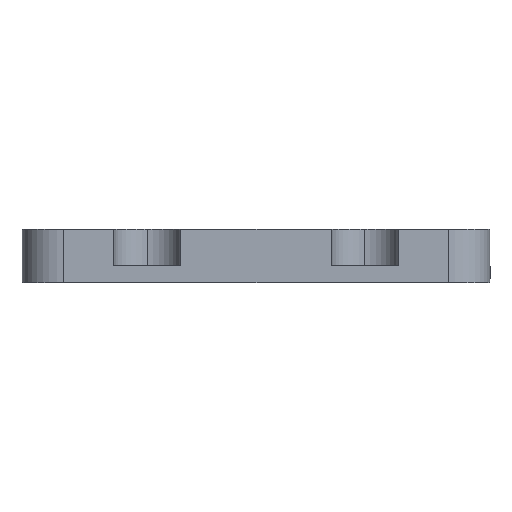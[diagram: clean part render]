
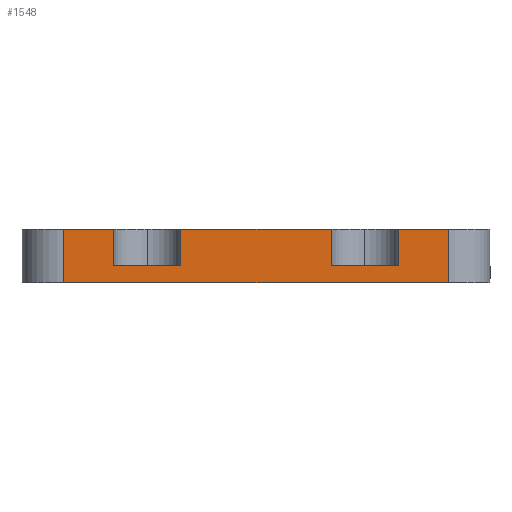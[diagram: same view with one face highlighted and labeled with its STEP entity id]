
A CAD part, left-side view. The second image highlights one B-rep face of the part: STEP entity #1548.
In plain terms, the highlighted planar face has unit normal (-1, 0, 0).
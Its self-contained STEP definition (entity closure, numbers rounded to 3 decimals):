
#14 = CARTESIAN_POINT ( 'NONE',  ( 0., 19., 2. ) ) ;
#52 = DIRECTION ( 'NONE',  ( 0., 0., -1. ) ) ;
#60 = CARTESIAN_POINT ( 'NONE',  ( 0., 51., 6.35 ) ) ;
#67 = LINE ( 'NONE', #70, #428 ) ;
#70 = CARTESIAN_POINT ( 'NONE',  ( 0., 5., 6.35 ) ) ;
#75 = DIRECTION ( 'NONE',  ( 0., 0., 1. ) ) ;
#77 = CARTESIAN_POINT ( 'NONE',  ( 0., 11., -12.036 ) ) ;
#78 = DIRECTION ( 'NONE',  ( 0., 0., 1. ) ) ;
#79 = CARTESIAN_POINT ( 'NONE',  ( 0., 45., -12.036 ) ) ;
#81 = LINE ( 'NONE', #77, #392 ) ;
#82 = LINE ( 'NONE', #79, #398 ) ;
#93 = LINE ( 'NONE', #60, #800 ) ;
#256 = DIRECTION ( 'NONE',  ( 0., 0., -1. ) ) ;
#257 = DIRECTION ( 'NONE',  ( 1., 0., 0. ) ) ;
#259 = PLANE ( 'NONE',  #904 ) ;
#260 = FACE_OUTER_BOUND ( 'NONE', #1626, .T. ) ;
#263 = CARTESIAN_POINT ( 'NONE',  ( 0., 5., 6.35 ) ) ;
#340 = DIRECTION ( 'NONE',  ( 0., 0., 1. ) ) ;
#341 = CARTESIAN_POINT ( 'NONE',  ( 0., 37., -12.036 ) ) ;
#342 = LINE ( 'NONE', #341, #925 ) ;
#379 = VECTOR ( 'NONE', #697, 1000. ) ;
#390 = VECTOR ( 'NONE', #1228, 1000. ) ;
#392 = VECTOR ( 'NONE', #75, 1000. ) ;
#398 = VECTOR ( 'NONE', #78, 1000. ) ;
#407 = VECTOR ( 'NONE', #642, 1000. ) ;
#428 = VECTOR ( 'NONE', #1244, 1000. ) ;
#433 = VECTOR ( 'NONE', #741, 1000. ) ;
#442 = VECTOR ( 'NONE', #1231, 1000. ) ;
#451 = VECTOR ( 'NONE', #759, 1000. ) ;
#509 = DIRECTION ( 'NONE',  ( 0., 0., -1. ) ) ;
#516 = LINE ( 'NONE', #517, #938 ) ;
#517 = CARTESIAN_POINT ( 'NONE',  ( 0., 5., 6.35 ) ) ;
#642 = DIRECTION ( 'NONE',  ( 0., -1., 0. ) ) ;
#671 = LINE ( 'NONE', #678, #407 ) ;
#678 = CARTESIAN_POINT ( 'NONE',  ( 0., 5., 6.35 ) ) ;
#697 = DIRECTION ( 'NONE',  ( 0., 0., 1. ) ) ;
#698 = CARTESIAN_POINT ( 'NONE',  ( 0., 19., -12.036 ) ) ;
#699 = LINE ( 'NONE', #698, #379 ) ;
#741 = DIRECTION ( 'NONE',  ( 0., 1., 0. ) ) ;
#742 = CARTESIAN_POINT ( 'NONE',  ( 0., 19., 2. ) ) ;
#743 = LINE ( 'NONE', #742, #433 ) ;
#759 = DIRECTION ( 'NONE',  ( 0., -1., 0. ) ) ;
#767 = CARTESIAN_POINT ( 'NONE',  ( 0., 5., 6.35 ) ) ;
#768 = LINE ( 'NONE', #767, #451 ) ;
#800 = VECTOR ( 'NONE', #52, 1000. ) ;
#904 = AXIS2_PLACEMENT_3D ( 'NONE', #263, #257, #256 ) ;
#925 = VECTOR ( 'NONE', #340, 1000. ) ;
#938 = VECTOR ( 'NONE', #509, 1000. ) ;
#975 = CARTESIAN_POINT ( 'NONE',  ( 0., 19., 6.35 ) ) ;
#985 = CARTESIAN_POINT ( 'NONE',  ( 0., 5., 0. ) ) ;
#994 = CARTESIAN_POINT ( 'NONE',  ( 0., 45., 6.35 ) ) ;
#999 = CARTESIAN_POINT ( 'NONE',  ( 0., 51., 6.35 ) ) ;
#1004 = CARTESIAN_POINT ( 'NONE',  ( 0., 37., 2. ) ) ;
#1005 = CARTESIAN_POINT ( 'NONE',  ( 0., 51., 0. ) ) ;
#1006 = CARTESIAN_POINT ( 'NONE',  ( 0., 5., 6.35 ) ) ;
#1009 = CARTESIAN_POINT ( 'NONE',  ( 0., 37., 6.35 ) ) ;
#1016 = CARTESIAN_POINT ( 'NONE',  ( 0., 11., 2. ) ) ;
#1059 = VERTEX_POINT ( 'NONE', #1372 ) ;
#1060 = VERTEX_POINT ( 'NONE', #1016 ) ;
#1073 = ORIENTED_EDGE ( 'NONE', *, *, #1492, .T. ) ;
#1074 = ORIENTED_EDGE ( 'NONE', *, *, #1465, .T. ) ;
#1075 = ORIENTED_EDGE ( 'NONE', *, *, #1412, .F. ) ;
#1076 = ORIENTED_EDGE ( 'NONE', *, *, #1479, .F. ) ;
#1077 = ORIENTED_EDGE ( 'NONE', *, *, #1519, .F. ) ;
#1078 = ORIENTED_EDGE ( 'NONE', *, *, #1421, .T. ) ;
#1079 = ORIENTED_EDGE ( 'NONE', *, *, #1603, .T. ) ;
#1080 = ORIENTED_EDGE ( 'NONE', *, *, #1458, .F. ) ;
#1081 = ORIENTED_EDGE ( 'NONE', *, *, #1411, .T. ) ;
#1082 = ORIENTED_EDGE ( 'NONE', *, *, #1420, .T. ) ;
#1083 = ORIENTED_EDGE ( 'NONE', *, *, #1530, .F. ) ;
#1084 = ORIENTED_EDGE ( 'NONE', *, *, #1416, .F. ) ;
#1128 = CARTESIAN_POINT ( 'NONE',  ( 0., 45., 2. ) ) ;
#1149 = VERTEX_POINT ( 'NONE', #1009 ) ;
#1154 = VERTEX_POINT ( 'NONE', #1128 ) ;
#1155 = VERTEX_POINT ( 'NONE', #1006 ) ;
#1156 = VERTEX_POINT ( 'NONE', #1005 ) ;
#1157 = VERTEX_POINT ( 'NONE', #1004 ) ;
#1162 = VERTEX_POINT ( 'NONE', #999 ) ;
#1167 = VERTEX_POINT ( 'NONE', #994 ) ;
#1176 = VERTEX_POINT ( 'NONE', #985 ) ;
#1186 = VERTEX_POINT ( 'NONE', #975 ) ;
#1228 = DIRECTION ( 'NONE',  ( 0., -1., 0. ) ) ;
#1229 = CARTESIAN_POINT ( 'NONE',  ( 0., 5., 0. ) ) ;
#1230 = LINE ( 'NONE', #1229, #390 ) ;
#1231 = DIRECTION ( 'NONE',  ( 0., 1., 0. ) ) ;
#1232 = CARTESIAN_POINT ( 'NONE',  ( 0., 37., 2. ) ) ;
#1233 = LINE ( 'NONE', #1232, #442 ) ;
#1244 = DIRECTION ( 'NONE',  ( 0., -1., 0. ) ) ;
#1372 = CARTESIAN_POINT ( 'NONE',  ( 0., 11., 6.35 ) ) ;
#1411 = EDGE_CURVE ( 'NONE', #1154, #1167, #82, .T. ) ;
#1412 = EDGE_CURVE ( 'NONE', #1060, #1059, #81, .T. ) ;
#1416 = EDGE_CURVE ( 'NONE', #1149, #1186, #67, .T. ) ;
#1420 = EDGE_CURVE ( 'NONE', #1157, #1154, #1233, .T. ) ;
#1421 = EDGE_CURVE ( 'NONE', #1156, #1176, #1230, .T. ) ;
#1458 = EDGE_CURVE ( 'NONE', #1162, #1167, #768, .T. ) ;
#1465 = EDGE_CURVE ( 'NONE', #1060, #1650, #743, .T. ) ;
#1479 = EDGE_CURVE ( 'NONE', #1059, #1155, #671, .T. ) ;
#1492 = EDGE_CURVE ( 'NONE', #1650, #1186, #699, .T. ) ;
#1519 = EDGE_CURVE ( 'NONE', #1155, #1176, #516, .T. ) ;
#1530 = EDGE_CURVE ( 'NONE', #1157, #1149, #342, .T. ) ;
#1548 = ADVANCED_FACE ( 'NONE', ( #260 ), #259, .F. ) ;
#1603 = EDGE_CURVE ( 'NONE', #1162, #1156, #93, .T. ) ;
#1626 = EDGE_LOOP ( 'NONE', ( #1084, #1083, #1082, #1081, #1080, #1079, #1078, #1077, #1076, #1075, #1074, #1073 ) ) ;
#1650 = VERTEX_POINT ( 'NONE', #14 ) ;
